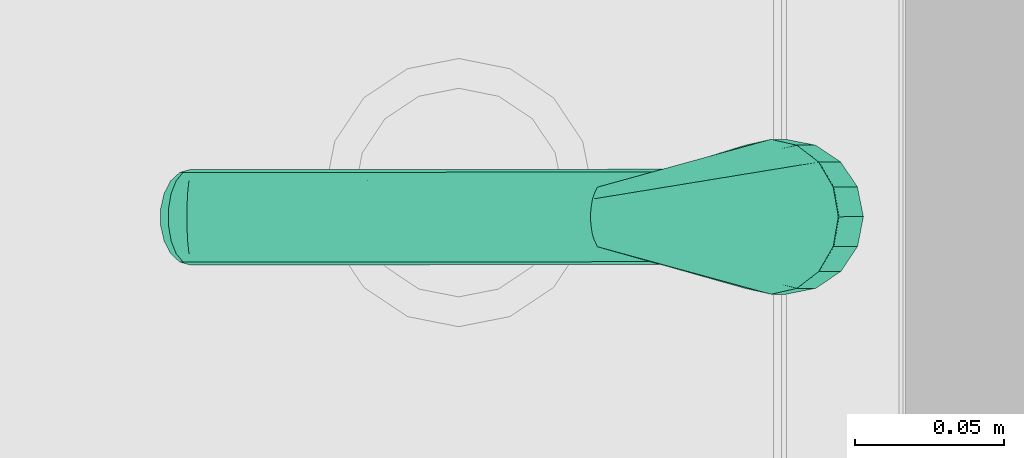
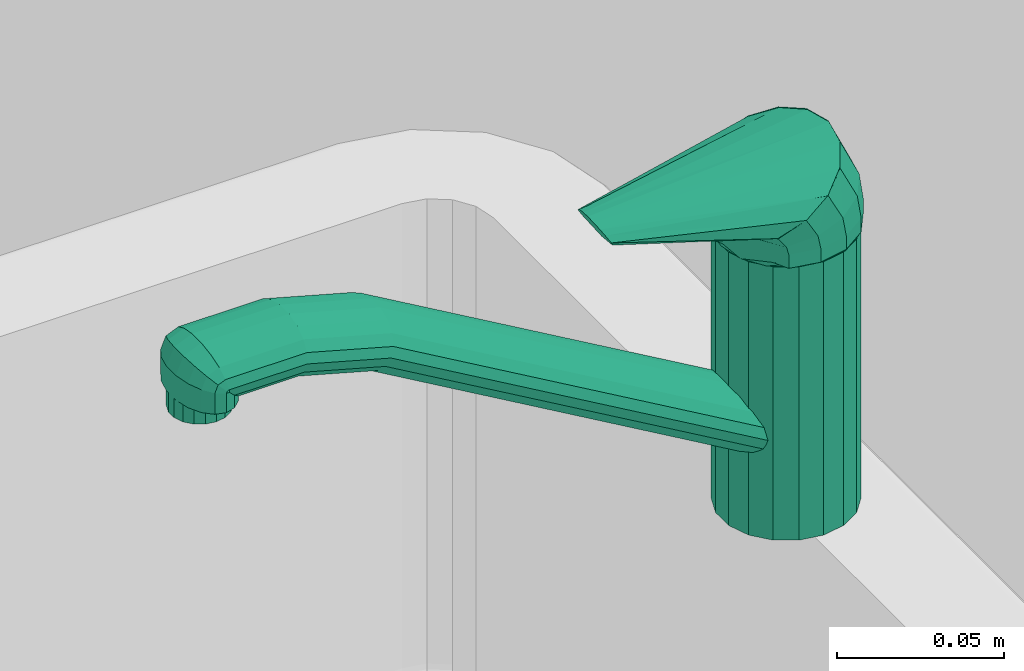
# One storey, part 87 of 127: 1 flow terminal.
"""IFC2X3 building model written with IfcOpenShell, lengths in millimetres."""

from ifc_helpers import new_model, entity, si_unit, converted_unit, derived_unit, money_unit, direction, frame, origin_with_axes, place, context, subcontext, project, spatial, open_shell, faceted_brep, surface_model, source, transform, mapped, type_object, element, save


model = new_model("IFC2X3")

# Units and contexts
model_context = context("Model", 3, precision=1e-05, world=origin_with_axes(), true_north=direction((0.0, 1.0)))
body_context = subcontext(model_context, "Body", "Model", "MODEL_VIEW")
ifc_project = project(units=[si_unit("LENGTHUNIT", "METRE", prefix="MILLI"), si_unit("AREAUNIT", "SQUARE_METRE"), si_unit("VOLUMEUNIT", "CUBIC_METRE"), converted_unit("PLANEANGLEUNIT", "DEGREE", entity("IfcPlaneAngleMeasure", 0.0174532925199), si_unit("PLANEANGLEUNIT", "RADIAN"), dimensions=[0, 0, 0, 0, 0, 0, 0]), si_unit("SOLIDANGLEUNIT", "STERADIAN"), money_unit("EUR"), converted_unit("TIMEUNIT", "Year", entity("IfcTimeMeasure", 31556926.0), si_unit("TIMEUNIT", "SECOND"), dimensions=[0, 0, 1, 0, 0, 0, 0]), si_unit("MASSUNIT", "GRAM", prefix="KILO"), si_unit("THERMODYNAMICTEMPERATUREUNIT", "DEGREE_CELSIUS"), si_unit("LUMINOUSINTENSITYUNIT", "LUMEN"), si_unit("ENERGYUNIT", "JOULE", prefix="MEGA"), derived_unit("THERMALCONDUCTANCEUNIT", [(si_unit("POWERUNIT", "WATT"), 1), (si_unit("LENGTHUNIT", "METRE"), -1), (si_unit("THERMODYNAMICTEMPERATUREUNIT", "KELVIN"), -1)]), derived_unit("SPECIFICHEATCAPACITYUNIT", [(si_unit("ENERGYUNIT", "JOULE"), 1), (si_unit("MASSUNIT", "GRAM", prefix="KILO"), -1), (si_unit("THERMODYNAMICTEMPERATUREUNIT", "KELVIN"), -1)]), derived_unit("MASSDENSITYUNIT", [(si_unit("MASSUNIT", "GRAM", prefix="KILO"), 1), (si_unit("VOLUMEUNIT", "CUBIC_METRE"), -1)])], contexts=[model_context])

# Site, building, storey
site_placement = place(None, origin_with_axes())
site = spatial("IfcSite", under=ifc_project, at=site_placement, Name="Site", CompositionType="ELEMENT")
building_placement = place(site_placement, origin_with_axes())
building = spatial("IfcBuilding", under=site, at=building_placement, Name="Building", CompositionType="ELEMENT")
storey_placement = place(building_placement, origin_with_axes())
storey = spatial("IfcBuildingStorey", under=building, at=storey_placement, Name="1 KORRUS", CompositionType="ELEMENT", Elevation=0.0)

# Flow terminal
sanitary_terminal_type = type_object("IfcSanitaryTerminalType", Name="Tap 22", PredefinedType="NOTDEFINED")
shared_shape = source(origin_with_axes(), body_context, "Body", "SurfaceModel", [
    faceted_brep([(21.1430839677, -7.69545322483, 1000.0), (17.2359999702, -14.4627212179, 1000.0), (11.25, -19.4855715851, 1000.0), (3.90708399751, -22.1581744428, 1000.0), (-3.90708399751, -22.1581744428, 1000.0), (-11.25, -19.4855715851, 1000.0), (-17.2359999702, -14.4627212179, 1000.0), (-21.1430839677, -7.69545322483, 1000.0), (-22.5, 0.0, 1000.0), (-21.1430839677, 7.69545322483, 1000.0), (-17.2359999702, 14.4627212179, 1000.0), (-11.25, 19.4855715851, 1000.0), (-3.90708399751, 22.1581744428, 1000.0), (3.90708399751, 22.1581744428, 1000.0), (11.25, 19.4855715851, 1000.0), (17.2359999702, 14.4627212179, 1000.0), (21.1430839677, 7.69545322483, 1000.0), (22.5, 0.0, 1000.0), (21.1430839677, -7.69545322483, 1010.0), (17.2359999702, -14.4627212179, 1010.0), (11.25, -19.4855715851, 1010.0), (3.90708399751, -22.1581744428, 1010.0), (-3.90708399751, -22.1581744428, 1010.0), (-11.25, -19.4855715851, 1010.0), (-17.2359999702, -14.4627212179, 1010.0), (-21.1430839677, -7.69545322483, 1010.0), (-22.5, 0.0, 1010.0), (-21.1430839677, 7.69545322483, 1010.0), (-17.2359999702, 14.4627212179, 1010.0), (-11.25, 19.4855715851, 1010.0), (-3.90708399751, 22.1581744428, 1010.0), (3.90708399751, 22.1581744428, 1010.0), (11.25, 19.4855715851, 1010.0), (17.2359999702, 14.4627212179, 1010.0), (21.1430839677, 7.69545322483, 1010.0), (22.5, 0.0, 1010.0)], [[[0, 1, 2, 3, 4, 5, 6, 7, 8, 9, 10, 11, 12, 13, 14, 15, 16, 17]], [[1, 0, 18, 19]], [[2, 1, 19, 20]], [[3, 2, 20, 21]], [[4, 3, 21, 22]], [[5, 4, 22, 23]], [[6, 5, 23, 24]], [[7, 6, 24, 25]], [[8, 7, 25, 26]], [[9, 8, 26, 27]], [[10, 9, 27, 28]], [[11, 10, 28, 29]], [[12, 11, 29, 30]], [[13, 12, 30, 31]], [[14, 13, 31, 32]], [[15, 14, 32, 33]], [[16, 15, 33, 34]], [[17, 16, 34, 35]], [[0, 17, 35, 18]], [[18, 35, 34, 33, 32, 31, 30, 29, 28, 27, 26, 25, 24, 23, 22, 21, 20, 19]]]),
    faceted_brep([(21.1430839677, -7.69545322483, 1010.0), (17.2359999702, -14.4627212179, 1010.0), (11.25, -19.4855715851, 1010.0), (3.90708399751, -22.1581744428, 1010.0), (-3.90708399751, -22.1581744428, 1010.0), (-11.25, -19.4855715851, 1010.0), (-17.2359999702, -14.4627212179, 1010.0), (-21.1430839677, -7.69545322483, 1010.0), (-22.5, 0.0, 1010.0), (-21.1430839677, 7.69545322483, 1010.0), (-17.2359999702, 14.4627212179, 1010.0), (-11.25, 19.4855715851, 1010.0), (-3.90708399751, 22.1581744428, 1010.0), (3.90708399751, 22.1581744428, 1010.0), (11.25, 19.4855715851, 1010.0), (17.2359999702, 14.4627212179, 1010.0), (21.1430839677, 7.69545322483, 1010.0), (22.5, 0.0, 1010.0), (21.1430839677, -7.69545322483, 1055.0), (17.2359999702, -14.4627212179, 1055.0), (11.25, -19.4855715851, 1055.0), (3.90708399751, -22.1581744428, 1055.0), (-3.90708399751, -22.1581744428, 1055.0), (-11.25, -19.4855715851, 1055.0), (-17.2359999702, -14.4627212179, 1055.0), (-21.1430839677, -7.69545322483, 1055.0), (-22.5, 0.0, 1055.0), (-21.1430839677, 7.69545322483, 1055.0), (-17.2359999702, 14.4627212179, 1055.0), (-11.25, 19.4855715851, 1055.0), (-3.90708399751, 22.1581744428, 1055.0), (3.90708399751, 22.1581744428, 1055.0), (11.25, 19.4855715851, 1055.0), (17.2359999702, 14.4627212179, 1055.0), (21.1430839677, 7.69545322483, 1055.0), (22.5, 0.0, 1055.0)], [[[0, 1, 2, 3, 4, 5, 6, 7, 8, 9, 10, 11, 12, 13, 14, 15, 16, 17]], [[1, 0, 18, 19]], [[2, 1, 19, 20]], [[3, 2, 20, 21]], [[4, 3, 21, 22]], [[5, 4, 22, 23]], [[6, 5, 23, 24]], [[7, 6, 24, 25]], [[8, 7, 25, 26]], [[9, 8, 26, 27]], [[10, 9, 27, 28]], [[11, 10, 28, 29]], [[12, 11, 29, 30]], [[13, 12, 30, 31]], [[14, 13, 31, 32]], [[15, 14, 32, 33]], [[16, 15, 33, 34]], [[17, 16, 34, 35]], [[0, 17, 35, 18]], [[18, 35, 34, 33, 32, 31, 30, 29, 28, 27, 26, 25, 24, 23, 22, 21, 20, 19]]]),
    faceted_brep([(21.1430839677, -7.69545322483, 1055.0), (17.2359999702, -14.4627212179, 1055.0), (11.25, -19.4855715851, 1055.0), (3.90708399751, -22.1581744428, 1055.0), (-3.90708399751, -22.1581744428, 1055.0), (-11.25, -19.4855715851, 1055.0), (-17.2359999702, -14.4627212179, 1055.0), (-21.1430839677, -7.69545322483, 1055.0), (-22.5, 0.0, 1055.0), (-21.1430839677, 7.69545322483, 1055.0), (-17.2359999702, 14.4627212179, 1055.0), (-11.25, 19.4855715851, 1055.0), (-3.90708399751, 22.1581744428, 1055.0), (3.90708399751, 22.1581744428, 1055.0), (11.25, 19.4855715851, 1055.0), (17.2359999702, 14.4627212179, 1055.0), (21.1430839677, 7.69545322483, 1055.0), (22.5, 0.0, 1055.0), (21.1430839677, -7.69545322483, 1100.0), (17.2359999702, -14.4627212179, 1100.0), (11.25, -19.4855715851, 1100.0), (3.90708399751, -22.1581744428, 1100.0), (-3.90708399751, -22.1581744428, 1100.0), (-11.25, -19.4855715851, 1100.0), (-17.2359999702, -14.4627212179, 1100.0), (-21.1430839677, -7.69545322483, 1100.0), (-22.5, 0.0, 1100.0), (-21.1430839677, 7.69545322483, 1100.0), (-17.2359999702, 14.4627212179, 1100.0), (-11.25, 19.4855715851, 1100.0), (-3.90708399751, 22.1581744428, 1100.0), (3.90708399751, 22.1581744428, 1100.0), (11.25, 19.4855715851, 1100.0), (17.2359999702, 14.4627212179, 1100.0), (21.1430839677, 7.69545322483, 1100.0), (22.5, 0.0, 1100.0)], [[[0, 1, 2, 3, 4, 5, 6, 7, 8, 9, 10, 11, 12, 13, 14, 15, 16, 17]], [[1, 0, 18, 19]], [[2, 1, 19, 20]], [[3, 2, 20, 21]], [[4, 3, 21, 22]], [[5, 4, 22, 23]], [[6, 5, 23, 24]], [[7, 6, 24, 25]], [[8, 7, 25, 26]], [[9, 8, 26, 27]], [[10, 9, 27, 28]], [[11, 10, 28, 29]], [[12, 11, 29, 30]], [[13, 12, 30, 31]], [[14, 13, 31, 32]], [[15, 14, 32, 33]], [[16, 15, 33, 34]], [[17, 16, 34, 35]], [[0, 17, 35, 18]], [[18, 35, 34, 33, 32, 31, 30, 29, 28, 27, 26, 25, 24, 23, 22, 21, 20, 19]]]),
    surface_model("IfcShellBasedSurfaceModel", [(20.7872894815, -8.61037722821, 1100.0), (22.5, 0.0, 1100.0), (26.0, -3.0, 1104.5), (24.0208678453, -12.9497692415, 1104.5), (20.7872894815, 8.61037722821, 1100.0), (24.0208678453, 6.94976924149, 1104.5), (15.9099025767, -15.9099025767, 1100.0), (24.0208678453, -12.9497692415, 1104.5), (15.9099025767, 15.9099025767, 1100.0), (18.3847763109, 15.3847763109, 1104.5), (8.61037722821, -20.7872894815, 1100.0), (8.61037722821, 20.7872894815, 1100.0), (9.94976924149, 21.0208678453, 1104.5), (0.0, -25.1, 1104.5), (0.0, 22.5, 1100.0), (0.0, 23.0, 1104.5), (0.0, -22.5, 1100.0), (-8.61037722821, 20.7872894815, 1100.0), (-9.94976924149, 21.0208678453, 1104.5), (-8.61037722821, -20.7872894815, 1100.0), (-15.9099025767, 15.9099025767, 1100.0), (-18.3847763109, 15.3847763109, 1104.5), (-15.9099025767, -15.9099025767, 1100.0), (-20.7872894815, 8.61037722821, 1100.0), (-24.0208678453, 6.94976924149, 1104.5), (-24.0208678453, -12.9497692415, 1104.5), (-22.5, 0.0, 1100.0), (-26.0, -3.0, 1104.5), (-20.7872894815, -8.61037722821, 1100.0)], [open_shell([[[0, 1, 2, 3]], [[1, 4, 5, 2]], [[6, 0, 3, 7]], [[4, 8, 9, 5]], [[10, 6, 7]], [[8, 11, 12, 9]], [[10, 7, 13]], [[11, 14, 15, 12]], [[16, 10, 13]], [[14, 17, 18, 15]], [[19, 16, 13]], [[17, 20, 21, 18]], [[22, 19, 13]], [[20, 23, 24, 21]], [[22, 13, 25]], [[23, 26, 27, 24]], [[28, 22, 25]], [[26, 28, 25, 27]]])]),
    surface_model("IfcShellBasedSurfaceModel", [(24.0208678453, -12.9497692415, 1103.0), (26.0, -3.0, 1108.0), (24.0208678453, -12.9497692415, 1108.0), (26.0, -3.0, 1103.0), (26.0, -4.0, 1113.0), (24.0208678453, -12.9497692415, 1103.0), (24.0208678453, 6.94976924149, 1108.0), (24.0208678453, -13.7565514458, 1111.04868971), (24.0208678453, 5.75655144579, 1114.95131029), (24.0208678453, -12.9497692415, 1108.0), (24.0208678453, 6.94976924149, 1103.0), (26.0, -8.0, 1120.0), (24.0208678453, 0.638818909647, 1124.93646795), (0.0, -25.1, 1103.0), (18.3847763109, 15.3847763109, 1108.0), (18.3847763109, 14.0277563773, 1116.60555128), (24.0208678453, -16.6388189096, 1115.06353205), (24.0208678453, -13.7565514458, 1111.04868971), (18.3847763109, 7.96245595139, 1129.1214034), (0.0, -25.1, 1108.0), (18.3847763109, 15.3847763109, 1103.0), (-24.0208678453, -12.9497692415, 1103.0), (9.94976924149, 21.0208678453, 1108.0), (9.94976924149, 19.5543988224, 1117.71087976), (9.94976924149, 12.8559537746, 1131.91768787), (24.0208678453, -16.6388189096, 1115.06353205), (0.0, -25.6708329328, 1108.66583341), (-24.0208678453, -12.9497692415, 1108.0), (9.94976924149, 21.0208678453, 1103.0), (-26.0, -3.0, 1103.0), (0.0, 23.0, 1108.0), (0.0, 21.495097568, 1118.09901951), (0.0, 14.5743216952, 1132.8996124), (0.0, -27.188173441, 1109.03532946), (-24.0208678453, -13.7565514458, 1111.04868971), (-26.0, -3.0, 1108.0), (0.0, 23.0, 1103.0), (-24.0208678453, 6.94976924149, 1103.0), (-9.94976924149, 21.0208678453, 1108.0), (-9.94976924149, 19.5543988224, 1117.71087976), (-9.94976924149, 12.8559537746, 1131.91768787), (-24.0208678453, -16.6388189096, 1115.06353205), (-26.0, -4.0, 1113.0), (-24.0208678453, 6.94976924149, 1108.0), (-9.94976924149, 21.0208678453, 1103.0), (-18.3847763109, 15.3847763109, 1103.0), (-18.3847763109, 15.3847763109, 1108.0), (-18.3847763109, 14.0277563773, 1116.60555128), (-18.3847763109, 7.96245595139, 1129.1214034), (-26.0, -8.0, 1120.0), (-24.0208678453, 5.75655144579, 1114.95131029), (-24.0208678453, 0.638818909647, 1124.93646795)], [open_shell([[[0, 1, 2]], [[1, 0, 3]], [[4, 2, 1]], [[2, 5, 0]], [[3, 6, 1]], [[2, 4, 7]], [[1, 8, 4]], [[5, 2, 9]], [[6, 3, 10]], [[8, 1, 6]], [[11, 7, 4]], [[7, 9, 2]], [[12, 4, 8]], [[9, 13, 5]], [[10, 14, 6]], [[6, 15, 8]], [[7, 11, 16]], [[4, 12, 11]], [[9, 7, 17]], [[8, 18, 12]], [[13, 9, 19]], [[14, 10, 20]], [[15, 6, 14]], [[18, 8, 15]], [[16, 17, 7]], [[17, 19, 9]], [[19, 21, 13]], [[20, 22, 14]], [[14, 23, 15]], [[15, 24, 18]], [[17, 16, 25]], [[19, 17, 26]], [[21, 19, 27]], [[22, 20, 28]], [[23, 14, 22]], [[24, 15, 23]], [[25, 26, 17]], [[26, 27, 19]], [[27, 29, 21]], [[28, 30, 22]], [[22, 31, 23]], [[23, 32, 24]], [[26, 25, 33]], [[27, 26, 34]], [[29, 27, 35]], [[30, 28, 36]], [[31, 22, 30]], [[32, 23, 31]], [[33, 34, 26]], [[34, 35, 27]], [[35, 37, 29]], [[36, 38, 30]], [[30, 39, 31]], [[31, 40, 32]], [[34, 33, 41]], [[35, 34, 42]], [[37, 35, 43]], [[38, 36, 44]], [[39, 30, 38]], [[40, 31, 39]], [[41, 42, 34]], [[42, 43, 35]], [[43, 45, 37]], [[44, 46, 38]], [[38, 47, 39]], [[39, 48, 40]], [[42, 41, 49]], [[43, 42, 50]], [[45, 43, 46]], [[46, 44, 45]], [[47, 38, 46]], [[48, 39, 47]], [[49, 50, 42]], [[50, 46, 43]], [[46, 50, 47]], [[47, 51, 48]], [[50, 49, 51]], [[51, 47, 50]]])]),
    surface_model("IfcShellBasedSurfaceModel", [(24.0208678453, -16.7440274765, 1115.25238044), (26.0, -8.0, 1120.0), (10.0, -66.2556184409, 1122.50657537), (8.0, -67.2099359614, 1124.26420959), (9.0, -65.3013009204, 1120.74894114), (24.0208678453, 0.744027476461, 1124.74761956), (6.0, -67.9256741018, 1125.58243526), (3.0, -68.4028328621, 1126.46125237), (0.0, -68.6414122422, 1126.90066093), (-3.0, -68.4028328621, 1126.46125237), (-6.0, -67.9256741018, 1125.58243526), (-8.0, -67.2099359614, 1124.26420959), (-10.0, -66.2556184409, 1122.50657537), (-9.0, -65.3013009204, 1120.74894114), (0.0, -63.8698246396, 1118.1124898), (0.0, -27.4218581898, 1109.4547914), (18.3847763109, 8.15685603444, 1128.77245707), (9.94976924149, 13.1099497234, 1131.46176752), (0.0, 14.8492449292, 1132.40612777), (-9.94976924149, 13.1099497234, 1131.46176752), (-18.3847763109, 8.15685603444, 1128.77245707), (-24.0208678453, 0.744027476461, 1124.74761956), (-26.0, -8.0, 1120.0), (-24.0208678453, -16.7440274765, 1115.25238044)], [open_shell([[[0, 1, 2]], [[1, 3, 2]], [[0, 2, 4]], [[1, 5, 3]], [[4, 2, 3, 6, 7, 8, 9, 10, 11, 12, 13, 14]], [[15, 0, 4]], [[5, 6, 3]], [[16, 7, 6]], [[17, 8, 7]], [[18, 9, 8]], [[19, 10, 9]], [[20, 11, 10]], [[21, 12, 11]], [[22, 13, 12]], [[23, 14, 13]], [[15, 4, 14]], [[5, 16, 6]], [[16, 17, 7]], [[17, 18, 8]], [[18, 19, 9]], [[19, 20, 10]], [[20, 21, 11]], [[21, 22, 12]], [[22, 23, 13]], [[23, 15, 14]]])]),
    surface_model("IfcShellBasedSurfaceModel", [(16.0, -15.0, 1035.8), (15.0350819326, -13.350271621, 1038.79711945), (15.0350819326, -144.663324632, 1115.17921593), (16.0, -146.0, 1112.0), (12.2567110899, -11.8995248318, 1041.43274206), (12.2567110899, -143.487872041, 1117.97497151), (15.0350819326, -174.536897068, 1123.42020143), (16.0, -175.0, 1120.0), (15.0350819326, -16.649728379, 1032.80288055), (15.0350819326, -147.336675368, 1108.82078407), (8.0, -10.8227411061, 1043.38897285), (8.0, -142.615419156, 1120.05005733), (12.2567110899, -174.129651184, 1126.4278761), (15.0350819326, -202.702022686, 1123.42020143), (16.0, -202.0, 1120.0), (15.0350819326, -175.463102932, 1116.57979857), (12.2567110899, -18.1004751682, 1030.16725794), (12.2567110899, -148.512127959, 1106.02502849), (2.77837084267, -10.2497964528, 1044.42986151), (2.77837084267, -142.151196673, 1121.15418744), (8.0, -173.827382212, 1128.66025404), (12.2567110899, -203.319371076, 1126.4278761), (15.0350819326, -205.304747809, 1122.30474781), (16.0, -202.7, 1119.7), (15.0350819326, -201.297977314, 1116.57979857), (12.2567110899, -175.870348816, 1113.5721239), (8.0, -19.1772588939, 1028.21102715), (8.0, -149.384580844, 1103.94994267), (-2.77837084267, -10.2497964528, 1044.42986151), (-2.77837084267, -142.151196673, 1121.15418744), (2.77837084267, -173.666548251, 1129.84807753), (8.0, -203.777583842, 1128.66025404), (12.2567110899, -207.595324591, 1124.59532459), (15.0350819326, -206.420201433, 1119.70202269), (16.0, -203.0, 1119.0), (15.0350819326, -200.095252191, 1117.09525219), (12.2567110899, -200.680628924, 1113.5721239), (8.0, -176.172617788, 1111.33974596), (2.77837084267, -19.7502035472, 1027.17013849), (2.77837084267, -149.848803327, 1102.84581256), (-8.0, -10.8227411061, 1043.38897285), (-8.0, -142.615419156, 1120.05005733), (-2.77837084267, -173.666548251, 1129.84807753), (2.77837084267, -204.021393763, 1129.84807753), (8.0, -209.295452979, 1126.29545298), (12.2567110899, -209.427876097, 1120.31937108), (15.0350819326, -206.420201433, 1112.0), (16.0, -203.0, 1112.0), (15.0350819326, -199.579798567, 1118.29797731), (12.2567110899, -197.804675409, 1114.80467541), (8.0, -200.222416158, 1111.33974596), (2.77837084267, -176.333451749, 1110.15192247), (-2.77837084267, -19.7502035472, 1027.17013849), (-2.77837084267, -149.848803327, 1102.84581256), (-12.2567110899, -11.8995248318, 1041.43274206), (-12.2567110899, -143.487872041, 1117.97497151), (-8.0, -173.827382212, 1128.66025404), (-2.77837084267, -204.021393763, 1129.84807753), (2.77837084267, -210.2000724, 1127.2000724), (8.0, -211.660254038, 1120.77758384), (12.2567110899, -209.427876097, 1112.0), (8.0, -211.660254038, 1112.0), (2.77837084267, -212.84807753, 1112.0), (-2.77837084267, -212.84807753, 1112.0), (-8.0, -211.660254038, 1112.0), (-12.2567110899, -209.427876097, 1112.0), (-15.0350819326, -206.420201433, 1112.0), (-16.0, -203.0, 1112.0), (-15.0350819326, -199.579798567, 1112.0), (-12.2567110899, -196.572123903, 1112.0), (-8.0, -194.339745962, 1112.0), (-2.77837084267, -193.15192247, 1112.0), (2.77837084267, -193.15192247, 1112.0), (8.0, -194.339745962, 1112.0), (12.2567110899, -196.572123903, 1112.0), (15.0350819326, -199.579798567, 1112.0), (12.2567110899, -196.572123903, 1117.68062892), (8.0, -196.104547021, 1113.10454702), (2.77837084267, -199.978606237, 1110.15192247), (-2.77837084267, -176.333451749, 1110.15192247), (-8.0, -19.1772588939, 1028.21102715), (-8.0, -149.384580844, 1103.94994267), (-15.0350819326, -13.350271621, 1038.79711945), (-15.0350819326, -144.663324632, 1115.17921593), (-12.2567110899, -174.129651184, 1126.4278761), (-8.0, -203.777583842, 1128.66025404), (-2.77837084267, -210.2000724, 1127.2000724), (2.77837084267, -212.84807753, 1121.02139376), (-2.77837084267, -212.84807753, 1121.02139376), (-8.0, -211.660254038, 1120.77758384), (-12.2567110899, -209.427876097, 1120.31937108), (-15.0350819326, -206.420201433, 1119.70202269), (-16.0, -203.0, 1119.0), (-15.0350819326, -199.579798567, 1118.29797731), (-12.2567110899, -196.572123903, 1117.68062892), (-8.0, -194.339745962, 1117.22241616), (-2.77837084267, -193.15192247, 1116.97860624), (2.77837084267, -193.15192247, 1116.97860624), (8.0, -194.339745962, 1117.22241616), (2.77837084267, -195.1999276, 1112.1999276), (-2.77837084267, -199.978606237, 1110.15192247), (-8.0, -176.172617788, 1111.33974596), (-12.2567110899, -18.1004751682, 1030.16725794), (-12.2567110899, -148.512127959, 1106.02502849), (-16.0, -15.0, 1035.8), (-16.0, -146.0, 1112.0), (-15.0350819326, -174.536897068, 1123.42020143), (-12.2567110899, -203.319371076, 1126.4278761), (-8.0, -209.295452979, 1126.29545298), (-12.2567110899, -207.595324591, 1124.59532459), (-15.0350819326, -205.304747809, 1122.30474781), (-16.0, -202.7, 1119.7), (-15.0350819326, -200.095252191, 1117.09525219), (-12.2567110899, -197.804675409, 1114.80467541), (-8.0, -196.104547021, 1113.10454702), (-2.77837084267, -195.1999276, 1112.1999276), (-8.0, -200.222416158, 1111.33974596), (-12.2567110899, -175.870348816, 1113.5721239), (-15.0350819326, -16.649728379, 1032.80288055), (-15.0350819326, -147.336675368, 1108.82078407), (-16.0, -175.0, 1120.0), (-15.0350819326, -202.702022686, 1123.42020143), (-16.0, -202.0, 1120.0), (-15.0350819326, -201.297977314, 1116.57979857), (-12.2567110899, -200.680628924, 1113.5721239), (-15.0350819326, -175.463102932, 1116.57979857)], [open_shell([[[0, 1, 2, 3]], [[1, 4, 5, 2]], [[3, 2, 6, 7]], [[8, 0, 3, 9]], [[4, 10, 11, 5]], [[2, 5, 12, 6]], [[7, 6, 13, 14]], [[9, 3, 7, 15]], [[16, 8, 9, 17]], [[10, 18, 19, 11]], [[5, 11, 20, 12]], [[6, 12, 21, 13]], [[14, 13, 22, 23]], [[15, 7, 14, 24]], [[17, 9, 15, 25]], [[26, 16, 17, 27]], [[18, 28, 29, 19]], [[11, 19, 30, 20]], [[12, 20, 31, 21]], [[13, 21, 32, 22]], [[23, 22, 33, 34]], [[24, 14, 23, 35]], [[25, 15, 24, 36]], [[27, 17, 25, 37]], [[38, 26, 27, 39]], [[28, 40, 41, 29]], [[19, 29, 42, 30]], [[20, 30, 43, 31]], [[21, 31, 44, 32]], [[22, 32, 45, 33]], [[34, 33, 46, 47]], [[35, 23, 34, 48]], [[36, 24, 35, 49]], [[37, 25, 36, 50]], [[39, 27, 37, 51]], [[52, 38, 39, 53]], [[40, 54, 55, 41]], [[29, 41, 56, 42]], [[30, 42, 57, 43]], [[31, 43, 58, 44]], [[32, 44, 59, 45]], [[33, 45, 60, 46]], [[47, 46, 60, 61, 62, 63, 64, 65, 66, 67, 68, 69, 70, 71, 72, 73, 74, 75]], [[48, 34, 47, 75]], [[49, 35, 48, 76]], [[50, 36, 49, 77]], [[51, 37, 50, 78]], [[53, 39, 51, 79]], [[80, 52, 53, 81]], [[54, 82, 83, 55]], [[41, 55, 84, 56]], [[42, 56, 85, 57]], [[43, 57, 86, 58]], [[44, 58, 87, 59]], [[45, 59, 61, 60]], [[59, 87, 62, 61]], [[87, 88, 63, 62]], [[88, 89, 64, 63]], [[89, 90, 65, 64]], [[90, 91, 66, 65]], [[91, 92, 67, 66]], [[92, 93, 68, 67]], [[93, 94, 69, 68]], [[94, 95, 70, 69]], [[95, 96, 71, 70]], [[96, 97, 72, 71]], [[97, 98, 73, 72]], [[98, 76, 74, 73]], [[76, 48, 75, 74]], [[77, 49, 76, 98]], [[78, 50, 77, 99]], [[79, 51, 78, 100]], [[81, 53, 79, 101]], [[102, 80, 81, 103]], [[82, 104, 105, 83]], [[55, 83, 106, 84]], [[56, 84, 107, 85]], [[57, 85, 108, 86]], [[58, 86, 88, 87]], [[86, 108, 89, 88]], [[108, 109, 90, 89]], [[109, 110, 91, 90]], [[110, 111, 92, 91]], [[111, 112, 93, 92]], [[112, 113, 94, 93]], [[113, 114, 95, 94]], [[114, 115, 96, 95]], [[115, 99, 97, 96]], [[99, 77, 98, 97]], [[100, 78, 99, 115]], [[101, 79, 100, 116]], [[103, 81, 101, 117]], [[118, 102, 103, 119]], [[104, 118, 119, 105]], [[83, 105, 120, 106]], [[84, 106, 121, 107]], [[85, 107, 109, 108]], [[107, 121, 110, 109]], [[121, 122, 111, 110]], [[122, 123, 112, 111]], [[123, 124, 113, 112]], [[124, 116, 114, 113]], [[116, 100, 115, 114]], [[117, 101, 116, 124]], [[119, 103, 117, 125]], [[105, 119, 125, 120]], [[106, 120, 122, 121]], [[120, 125, 123, 122]], [[125, 117, 124, 123]]])]),
    faceted_brep([(9.39692620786, -199.579798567, 1112.0), (7.66044443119, -196.572123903, 1112.0), (5.0, -194.339745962, 1112.0), (1.73648177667, -193.15192247, 1112.0), (-1.73648177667, -193.15192247, 1112.0), (-5.0, -194.339745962, 1112.0), (-7.66044443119, -196.572123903, 1112.0), (-9.39692620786, -199.579798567, 1112.0), (-10.0, -203.0, 1112.0), (-9.39692620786, -206.420201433, 1112.0), (-7.66044443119, -209.427876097, 1112.0), (-5.0, -211.660254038, 1112.0), (-1.73648177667, -212.84807753, 1112.0), (1.73648177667, -212.84807753, 1112.0), (5.0, -211.660254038, 1112.0), (7.66044443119, -209.427876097, 1112.0), (9.39692620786, -206.420201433, 1112.0), (10.0, -203.0, 1112.0), (9.39692620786, -199.579798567, 1105.0), (7.66044443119, -196.572123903, 1105.0), (5.0, -194.339745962, 1105.0), (1.73648177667, -193.15192247, 1105.0), (-1.73648177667, -193.15192247, 1105.0), (-5.0, -194.339745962, 1105.0), (-7.66044443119, -196.572123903, 1105.0), (-9.39692620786, -199.579798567, 1105.0), (-10.0, -203.0, 1105.0), (-9.39692620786, -206.420201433, 1105.0), (-7.66044443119, -209.427876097, 1105.0), (-5.0, -211.660254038, 1105.0), (-1.73648177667, -212.84807753, 1105.0), (1.73648177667, -212.84807753, 1105.0), (5.0, -211.660254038, 1105.0), (7.66044443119, -209.427876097, 1105.0), (9.39692620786, -206.420201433, 1105.0), (10.0, -203.0, 1105.0)], [[[0, 1, 2, 3, 4, 5, 6, 7, 8, 9, 10, 11, 12, 13, 14, 15, 16, 17]], [[1, 0, 18, 19]], [[2, 1, 19, 20]], [[3, 2, 20, 21]], [[4, 3, 21, 22]], [[5, 4, 22, 23]], [[6, 5, 23, 24]], [[7, 6, 24, 25]], [[8, 7, 25, 26]], [[9, 8, 26, 27]], [[10, 9, 27, 28]], [[11, 10, 28, 29]], [[12, 11, 29, 30]], [[13, 12, 30, 31]], [[14, 13, 31, 32]], [[15, 14, 32, 33]], [[16, 15, 33, 34]], [[17, 16, 34, 35]], [[0, 17, 35, 18]], [[18, 35, 34, 33, 32, 31, 30, 29, 28, 27, 26, 25, 24, 23, 22, 21, 20, 19]]]),
])
flow_terminal_placement = place(storey_placement, frame((70045.8962014, 43611.2223395, -100.0), z_axis=(0.0, 0.0, 1.0), x_axis=(0.000769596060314, -0.999999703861, 0.0)))
element("IfcFlowTerminal", 1, at=flow_terminal_placement, inside=storey, type_object=sanitary_terminal_type, Name="Valamu", context=body_context, shape_type="MappedRepresentation", body=[
    mapped(shared_shape, transform((0.0, 0.0, 0.0))),
])

save(model, "model.ifc")
